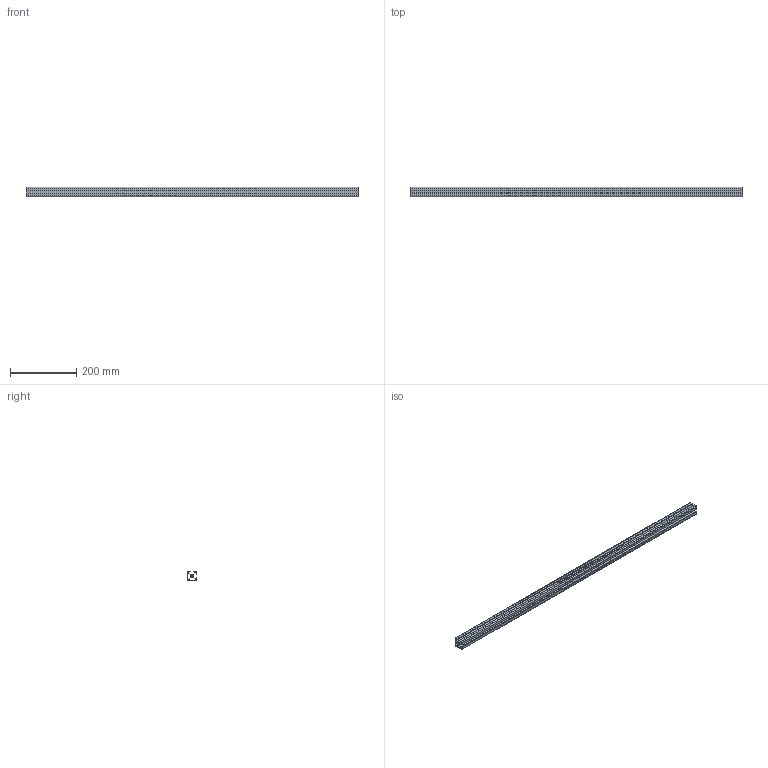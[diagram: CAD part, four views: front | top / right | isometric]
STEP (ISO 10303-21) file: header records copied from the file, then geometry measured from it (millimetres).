
FILE_DESCRIPTION (( 'STEP AP214' ), '1' );
FILE_NAME ('10416_PRO_8_30x30_2N_90.STEP', '2016-02-29T14:24:39', ( '' ), ( '' ), 'SwSTEP 2.0', 'SolidWorks 2015', '' );
FILE_SCHEMA (( 'AUTOMOTIVE_DESIGN' ));
Length unit declared in the file: millimetre
Products named in the file (1): 10416_PRO_8_30x30_2N_90
Bounding box: 1000 x 30 x 30 mm (x, y, z)
Volume: 351032.1 mm3; surface area: 298362.1 mm2
Topology: 1 solids, 1 shells, 74 faces, 216 edges, 144 vertices
Faces by surface type: cylinder 40, plane 34
Entity records: 2526 total; most frequent: DIRECTION 446, CARTESIAN_POINT 435, ORIENTED_EDGE 432, EDGE_CURVE 216, AXIS2_PLACEMENT_3D 155, VERTEX_POINT 144, LINE 136, VECTOR 136
